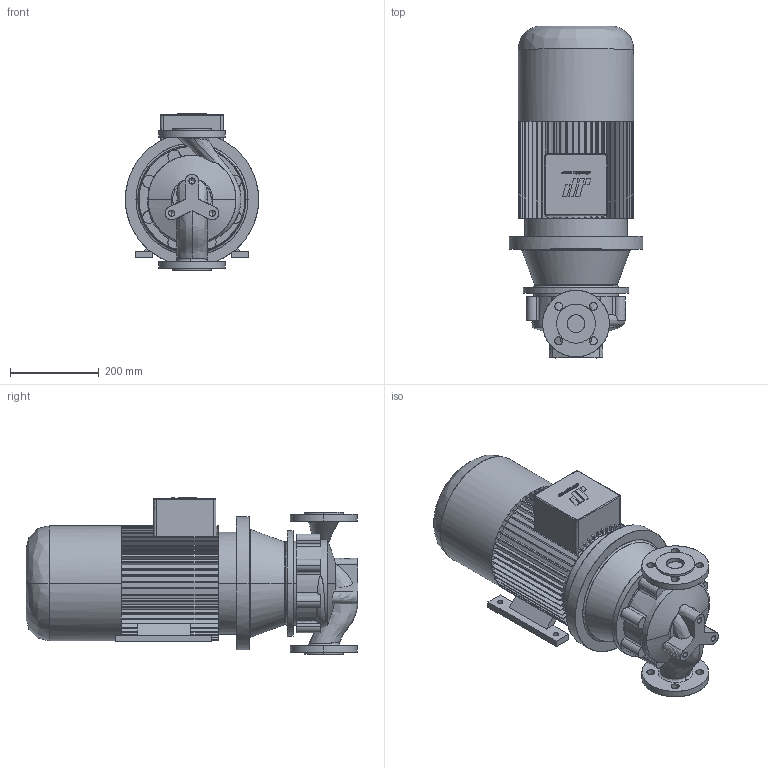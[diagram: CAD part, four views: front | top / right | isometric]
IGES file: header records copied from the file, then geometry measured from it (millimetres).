
Start section: CombiLine
Global section: file name: CLB_40-160_IEC132M_ND10.igs; native system:  By UGS Corp.; preprocessor: XPlus GENERIC/IGES 3.0; author: Stageplaats; organization: Johnson Pump Water B.V.; date: 20070716.105818; units: millimetre
Bounding box: 300 x 747 x 353 mm (x, y, z)
Surface area: 1201174.7 mm2 (no closed solid volume)
Topology: 0 solids, 0 shells, 578 faces, 3511 edges, 3505 vertices
Faces by surface type: bspline 578
